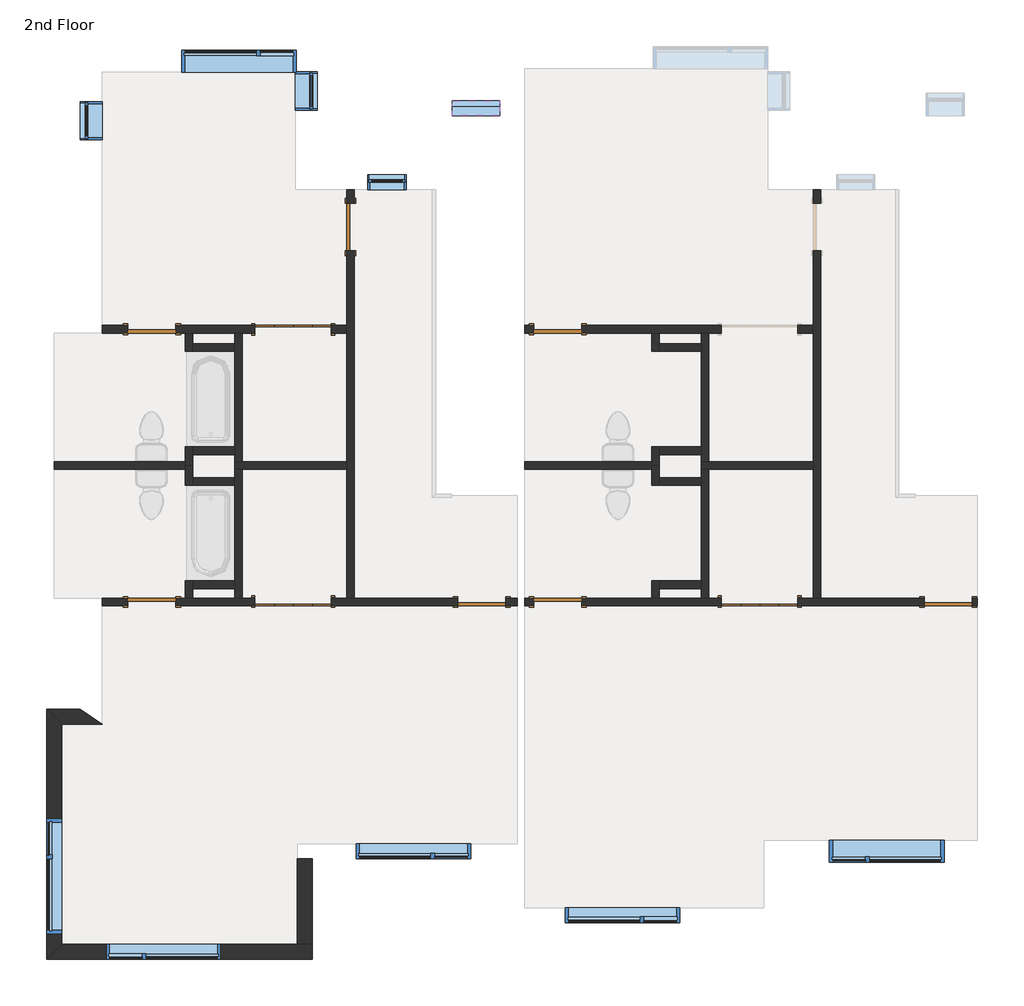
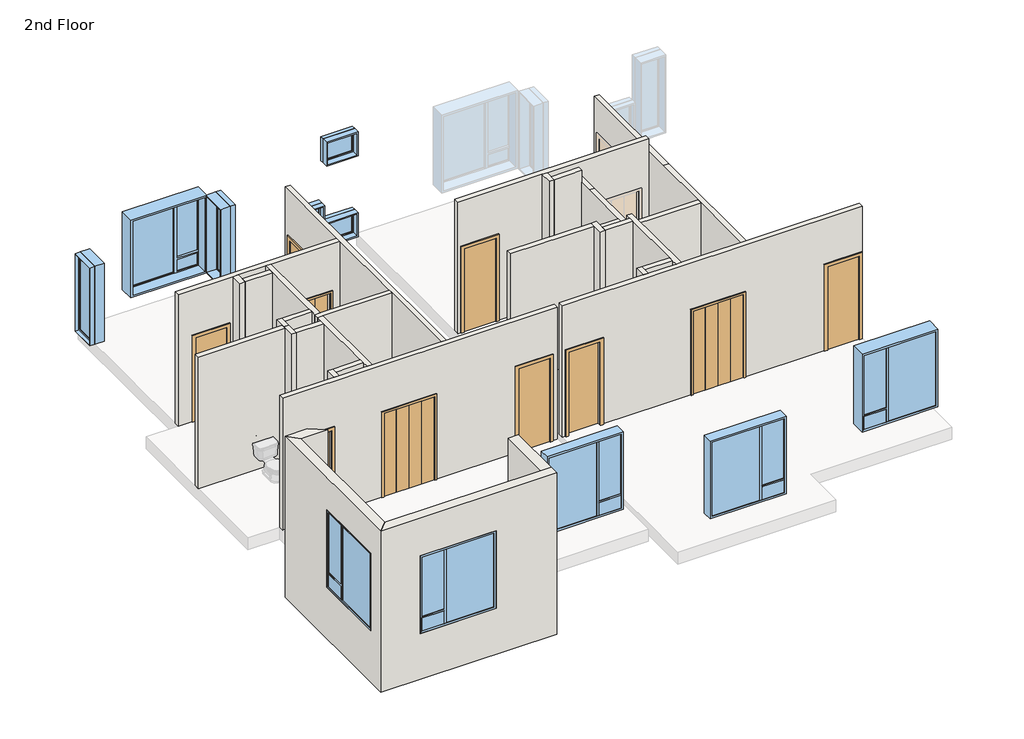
# One storey, part 1 of 2: 34 walls, 12 windows, 10 doors.
"""IFC4 building model written with IfcOpenShell, lengths in millimetres."""

from ifc_helpers import new_model, si_unit, frame, origin, place, context, project, spatial, polyline, outline, extrude, faceted_brep, transform, mapped, element, save
from components import bifold_4_panel_c9060b8c, bifold_4_panel_87549022, door_f8acb57e, door_702a1063, window_8bf192ed, window_b1c1038b, window_03925a3a, window_7b40078c, window_0ea17b29, window_b4566f23

model = new_model("IFC4")

# Units and contexts
model_context = context("Model", 3, world=origin())
ifc_project = project(units=[si_unit("LENGTHUNIT", "METRE", prefix="MILLI")], contexts=[model_context])

# Site, building, storey
site = spatial("IfcSite", under=ifc_project)
building = spatial("IfcBuilding", under=site)
storey = spatial("IfcBuildingStorey", under=building, Name="2nd Floor", Elevation=3352.8)

# Doors
placement = place(None, origin())
bifold_4_panel_shape = bifold_4_panel_c9060b8c(model_context)
element("IfcDoor", 1, ObjectType="Bifold - 4 panel : 48\" x  84\"", at=placement, inside=storey, context=model_context, shape_type="MappedRepresentation", body=[
    mapped(bifold_4_panel_shape, transform((2169.4655789, -2059.4561915, 3352.8), x_axis=(1.0, 0.0, 0.0), y_axis=(0.0, 1.0, 0.0), z_axis=(0.0, 0.0, 1.0))),
])
element("IfcDoor", 2, ObjectType="Bifold - 4 panel : 48\" x  84\"", at=placement, inside=storey, context=model_context, shape_type="MappedRepresentation", body=[
    mapped(bifold_4_panel_shape, transform((-5271.2844211, -2059.4561915, 3352.8), x_axis=(1.0, 0.0, 0.0), y_axis=(0.0, 1.0, 0.0), z_axis=(0.0, 0.0, 1.0))),
])
bifold_4_panel_2_shape = bifold_4_panel_87549022(model_context)
element("IfcDoor", 3, ObjectType="Bifold - 4 panel : 48\" x  84\"", at=placement, inside=storey, context=model_context, shape_type="MappedRepresentation", body=[
    mapped(bifold_4_panel_2_shape, transform((-5271.2844211, 2292.6699206, 3352.8), x_axis=(1.0, 0.0, 0.0), y_axis=(0.0, 1.0, 0.0), z_axis=(0.0, 0.0, 1.0))),
])
door_shape = door_f8acb57e(model_context)
element("IfcDoor", 4, ObjectType="Single-Flush : 30\" x 84\"", at=placement, inside=storey, context=model_context, shape_type="MappedRepresentation", body=[
    mapped(door_shape, transform((-1052.2446781, 2292.6699206, 3352.8), x_axis=(-1.0, 0.0, 0.0), y_axis=(0.0, -1.0, 0.0), z_axis=(0.0, 0.0, 1.0))),
])
element("IfcDoor", 5, ObjectType="Single-Flush : 30\" x 84\"", at=placement, inside=storey, context=model_context, shape_type="MappedRepresentation", body=[
    mapped(door_shape, transform((-4356.8844211, 3921.3063085, 3352.8), x_axis=(0.0, 1.0, 0.0), y_axis=(-1.0, 0.0, 0.0), z_axis=(0.0, 0.0, 1.0))),
])
element("IfcDoor", 6, ObjectType="Single-Flush : 30\" x 84\"", at=placement, inside=storey, context=model_context, shape_type="MappedRepresentation", body=[
    mapped(door_shape, transform((-7524.7446781, -2059.4561915, 3352.8), x_axis=(1.0, 0.0, 0.0), y_axis=(0.0, 1.0, 0.0), z_axis=(0.0, 0.0, 1.0))),
])
door_2_shape = door_702a1063(model_context)
element("IfcDoor", 7, ObjectType="Single-Flush : 30\" x 84\"", at=placement, inside=storey, context=model_context, shape_type="MappedRepresentation", body=[
    mapped(door_2_shape, transform((-1052.2446781, -2059.4561915, 3352.8), x_axis=(-1.0, 0.0, 0.0), y_axis=(0.0, -1.0, 0.0), z_axis=(0.0, 0.0, 1.0))),
])
element("IfcDoor", 8, ObjectType="Single-Flush : 30\" x 84\"", at=placement, inside=storey, context=model_context, shape_type="MappedRepresentation", body=[
    mapped(door_2_shape, transform((5177.5155789, -2059.4561915, 3352.8), x_axis=(1.0, 0.0, 0.0), y_axis=(0.0, 1.0, 0.0), z_axis=(0.0, 0.0, 1.0))),
])
element("IfcDoor", 9, ObjectType="Single-Flush : 30\" x 84\"", at=placement, inside=storey, context=model_context, shape_type="MappedRepresentation", body=[
    mapped(door_2_shape, transform((-7524.7446781, 2292.6699206, 3352.8), x_axis=(1.0, 0.0, 0.0), y_axis=(0.0, 1.0, 0.0), z_axis=(0.0, 0.0, 1.0))),
])
element("IfcDoor", 10, ObjectType="Single-Flush : 30\" x 84\"", at=placement, inside=storey, context=model_context, shape_type="MappedRepresentation", body=[
    mapped(door_2_shape, transform((-2263.2344211, -2059.4561915, 3352.8), x_axis=(1.0, 0.0, 0.0), y_axis=(0.0, 1.0, 0.0), z_axis=(0.0, 0.0, 1.0))),
])

# Walls
element("IfcWall", 11, ObjectType="Exterior - Stucco", at=placement, inside=storey, context=model_context, shape_type="Brep", body=[
    faceted_brep([(-9204.3196781, -7758.9936915, 2952.8), (-4962.9321781, -7758.9936915, 2952.8), (-4962.9321781, -7758.9936915, 7052.8), (-9204.3196781, -7758.9936915, 7052.8), (-8255.0946781, -7758.9936915, 6096.0), (-6426.2946781, -7758.9936915, 6096.0), (-6426.2946781, -7758.9936915, 4114.8), (-8255.0946781, -7758.9936915, 4114.8), (-8963.0196781, -7517.6936915, 2952.8), (-8963.0196781, -7517.6936915, 7052.8), (-5204.2321781, -7517.6936915, 7052.8), (-4962.9321781, -7517.6936915, 7052.8), (-4962.9321781, -7517.6936915, 2952.8), (-5204.2321781, -7517.6936915, 2952.8), (-8255.0946781, -7517.6936915, 6096.0), (-8255.0946781, -7517.6936915, 4114.8), (-6426.2946781, -7517.6936915, 4114.8), (-6426.2946781, -7517.6936915, 6096.0)], [[[0, 1, 2, 3], [4, 5, 6, 7]], [[8, 9, 10, 11, 12, 13], [14, 15, 16, 17]], [[1, 0, 8, 13, 12]], [[3, 2, 11, 10, 9]], [[0, 3, 9, 8]], [[2, 1, 12, 11]], [[15, 14, 4, 7]], [[16, 15, 7, 6]], [[17, 16, 6, 5]], [[14, 17, 5, 4]]]),
])
element("IfcWall", 12, ObjectType="Exterior - Stucco", at=placement, inside=storey, context=model_context, shape_type="Brep", body=[
    faceted_brep([(-9204.3196781, -3770.7811915, 2952.8), (-9204.3196781, -7758.9936915, 2952.8), (-9204.3196781, -7758.9936915, 7052.8), (-9204.3196781, -3770.7811915, 7052.8), (-9204.3196781, -5519.0311915, 6248.4), (-9204.3196781, -7347.8311915, 6248.4), (-9204.3196781, -7347.8311915, 4267.2), (-9204.3196781, -5519.0311915, 4267.2), (-8963.0196781, -4012.0811915, 2952.8), (-8963.0196781, -4012.0811915, 7052.8), (-8963.0196781, -7517.6936915, 7052.8), (-8963.0196781, -7517.6936915, 2952.8), (-8963.0196781, -5519.0311915, 6248.4), (-8963.0196781, -5519.0311915, 4267.2), (-8963.0196781, -7347.8311915, 4267.2), (-8963.0196781, -7347.8311915, 6248.4)], [[[0, 1, 2, 3], [4, 5, 6, 7]], [[8, 9, 10, 11], [12, 13, 14, 15]], [[1, 0, 8, 11]], [[3, 2, 10, 9]], [[2, 1, 11, 10]], [[0, 3, 9, 8]], [[13, 12, 4, 7]], [[14, 13, 7, 6]], [[15, 14, 6, 5]], [[12, 15, 5, 4]]]),
])
element("IfcWall", 13, ObjectType="Exterior - Stucco", at=placement, inside=storey, context=model_context, shape_type="SweptSolid", body=[
    extrude(outline(polyline([(-9204.3196781, -3770.7811915), (-8664.6696781, -3770.7811915), (-8312.2446781, -4012.0811915), (-8963.0196781, -4012.0811915), (-9204.3196781, -3770.7811915)])), frame((0.0, 0.0, 2952.8), z_axis=(0.0, 0.0, 1.0), x_axis=(1.0, 0.0, 0.0)), (0.0, 0.0, 1.0), 4100.0),
])
element("IfcWall", 14, ObjectType="Exterior - Stucco", at=placement, inside=storey, context=model_context, shape_type="Brep", body=[
    faceted_brep([(-4962.9321781, -7517.6936915, 2952.75), (-4962.9321781, -6155.1546456, 2952.75), (-4962.9321781, -6155.1546456, 7052.6671875), (-4962.9321781, -7517.6936915, 7052.6671875), (-5204.2321781, -7517.6936915, 2952.75), (-5204.2321781, -7517.6936915, 7052.6671875), (-5204.2321781, -6155.1546456, 7052.6671875), (-5204.2321781, -6155.1546456, 3048.0), (-5204.2321781, -6155.1546456, 2952.75)], [[[0, 1, 2, 3]], [[4, 5, 6, 7, 8]], [[1, 0, 4, 8]], [[3, 2, 6, 5]], [[1, 8, 7, 6, 2]], [[0, 3, 5, 4]]]),
])
element("IfcWall", 15, ObjectType="Interior - 4 7/8\" Partition (1-hr)", at=placement, inside=storey, context=model_context, shape_type="Brep", body=[
    faceted_brep([(3145.7780789, 4302.3063085, 5486.4), (3145.7780789, 4302.3063085, 3352.8), (3145.7780789, 4511.8563085, 3352.8), (3145.7780789, 4511.8563085, 6400.8), (3145.7780789, 1625.1313085, 6400.8), (3145.7780789, -1997.5436915, 6400.8), (3145.7780789, -1997.5436915, 3352.8), (3145.7780789, 3540.3063085, 3352.8), (3145.7780789, 3540.3063085, 5486.4), (3021.9530789, 4511.8563085, 3352.8), (3021.9530789, 4302.3063085, 3352.8), (3021.9530789, 4302.3063085, 5486.4), (3021.9530789, 3540.3063085, 5486.4), (3021.9530789, 3540.3063085, 3352.8), (3021.9530789, 2354.5824206, 3352.8), (3021.9530789, 2230.7574206, 3352.8), (3021.9530789, 178.5193646, 3352.8), (3021.9530789, 54.6943646, 3352.8), (3021.9530789, -1997.5436915, 3352.8), (3021.9530789, -1997.5436915, 6400.8), (3021.9530789, 54.6943646, 6400.8), (3021.9530789, 178.5193646, 6400.8), (3021.9530789, 1625.1313085, 6400.8), (3021.9530789, 4511.8563085, 6400.8)], [[[0, 1, 2, 3, 4, 5, 6, 7, 8]], [[9, 10, 11, 12, 13, 14, 15, 16, 17, 18, 19, 20, 21, 22, 23]], [[2, 1, 10, 9]], [[7, 6, 18, 17, 16, 15, 14, 13]], [[9, 23, 3, 2]], [[23, 22, 4, 3]], [[22, 21, 20, 19, 5, 4]], [[19, 18, 6, 5]], [[11, 10, 1, 0]], [[12, 11, 0, 8]], [[13, 12, 8, 7]]]),
])
element("IfcWall", 16, ObjectType="Interior - 4 7/8\" Partition (1-hr)", at=placement, inside=storey, context=model_context, shape_type="Brep", body=[
    faceted_brep([(3021.9530789, 54.6943646, 3352.8), (3021.9530789, 54.6943646, 6400.8), (1235.1530789, 54.6943646, 6400.8), (1235.1530789, 54.6943646, 3352.8), (1358.9780789, 54.6943646, 3352.8), (3021.9530789, 178.5193646, 3352.8), (1358.9780789, 178.5193646, 3352.8), (1235.1530789, 178.5193646, 3352.8), (1235.1530789, 178.5193646, 6400.8), (1358.9780789, 178.5193646, 6400.8), (3021.9530789, 178.5193646, 6400.8)], [[[0, 1, 2, 3, 4]], [[5, 6, 7, 8, 9, 10]], [[7, 6, 5, 0, 4, 3]], [[8, 7, 3, 2]], [[5, 10, 1, 0]], [[10, 9, 8, 2, 1]]]),
])
element("IfcWall", 17, ObjectType="Interior - 4 7/8\" Partition (1-hr)", at=placement, inside=storey, context=model_context, shape_type="Brep", body=[
    faceted_brep([(3021.9530789, 2354.5824206, 6705.6), (-1576.1196781, 2354.5824206, 6705.6), (-1576.1196781, 2230.7574206, 6705.6), (447.7530789, 2230.7574206, 6705.6), (571.5780789, 2230.7574206, 6705.6), (3021.9530789, 2230.7574206, 6705.6), (-1576.1196781, 2230.7574206, 3352.8), (-1433.2446781, 2230.7574206, 3352.8), (-1433.2446781, 2230.7574206, 5486.4), (-671.2446781, 2230.7574206, 5486.4), (-671.2446781, 2230.7574206, 3352.8), (447.7530789, 2230.7574206, 3352.8), (571.5780789, 2230.7574206, 3352.8), (1235.1530789, 2230.7574206, 3352.8), (1358.9780789, 2230.7574206, 3352.8), (1559.8655789, 2230.7574206, 3352.8), (1559.8655789, 2230.7574206, 5486.4), (2779.0655789, 2230.7574206, 5486.4), (2779.0655789, 2230.7574206, 3352.8), (3021.9530789, 2230.7574206, 3352.8), (3021.9530789, 2354.5824206, 3352.8), (2779.0655789, 2354.5824206, 3352.8), (2779.0655789, 2354.5824206, 5486.4), (1559.8655789, 2354.5824206, 5486.4), (1559.8655789, 2354.5824206, 3352.8), (-671.2446781, 2354.5824206, 3352.8), (-671.2446781, 2354.5824206, 5486.4), (-1433.2446781, 2354.5824206, 5486.4), (-1433.2446781, 2354.5824206, 3352.8), (-1576.1196781, 2354.5824206, 3352.8)], [[[0, 1, 2, 3, 4, 5]], [[5, 4, 3, 2, 6, 7, 8, 9, 10, 11, 12, 13, 14, 15, 16, 17, 18, 19]], [[1, 0, 20, 21, 22, 23, 24, 25, 26, 27, 28, 29]], [[20, 19, 18, 21]], [[6, 29, 28, 7]], [[24, 15, 14, 13, 12, 11, 10, 25]], [[20, 0, 5, 19]], [[1, 29, 6, 2]], [[17, 22, 21, 18]], [[22, 17, 16, 23]], [[23, 16, 15, 24]], [[27, 8, 7, 28]], [[8, 27, 26, 9]], [[9, 26, 25, 10]]]),
])
element("IfcWall", 18, ObjectType="Interior - 4 7/8\" Partition (1-hr)", at=placement, inside=storey, context=model_context, shape_type="Brep", body=[
    faceted_brep([(1235.1530789, 178.5193646, 3352.8), (1235.1530789, 178.5193646, 6400.8), (1235.1530789, 289.2824206, 6400.8), (1235.1530789, 413.1074206, 6400.8), (1235.1530789, 1625.1313085, 6400.8), (1235.1530789, 2230.7574206, 6400.8), (1235.1530789, 2230.7574206, 3352.8), (1235.1530789, 2060.9324206, 3352.8), (1235.1530789, 1937.1074206, 3352.8), (1235.1530789, 413.1074206, 3352.8), (1235.1530789, 289.2824206, 3352.8), (1358.9780789, 178.5193646, 3352.8), (1358.9780789, 2230.7574206, 3352.8), (1358.9780789, 2230.7574206, 6400.8), (1358.9780789, 1625.1313085, 6400.8), (1358.9780789, 178.5193646, 6400.8)], [[[0, 1, 2, 3, 4, 5, 6, 7, 8, 9, 10]], [[11, 12, 13, 14, 15]], [[12, 11, 0, 10, 9, 8, 7, 6]], [[11, 15, 1, 0]], [[13, 12, 6, 5]], [[14, 13, 5, 4]], [[15, 14, 4, 3, 2, 1]]]),
])
element("IfcWall", 19, ObjectType="Interior - 4 7/8\" Partition (1-hr)", at=placement, inside=storey, context=model_context, shape_type="Brep", body=[
    faceted_brep([(447.7530789, 2230.7574206, 3352.8), (447.7530789, 1937.1074206, 3352.8), (447.7530789, 1937.1074206, 6705.6), (447.7530789, 2230.7574206, 6705.6), (571.5780789, 2230.7574206, 3352.8), (571.5780789, 2230.7574206, 6705.6), (571.5780789, 2060.9324206, 6705.6), (571.5780789, 1937.1074206, 6705.6), (571.5780789, 1937.1074206, 3352.8), (571.5780789, 2060.9324206, 3352.8)], [[[0, 1, 2, 3]], [[4, 5, 6, 7, 8, 9]], [[1, 0, 4, 9, 8]], [[3, 2, 7, 6, 5]], [[2, 1, 8, 7]], [[0, 3, 5, 4]]]),
])
element("IfcWall", 20, ObjectType="Interior - 4 7/8\" Partition (1-hr)", at=placement, inside=storey, context=model_context, shape_type="SweptSolid", body=[
    extrude(outline(polyline([(1235.1530789, 1937.1074206), (571.5780789, 1937.1074206), (571.5780789, 2060.9324206), (1235.1530789, 2060.9324206), (1235.1530789, 1937.1074206)])), frame((0.0, 0.0, 3352.8), z_axis=(0.0, 0.0, 1.0), x_axis=(1.0, 0.0, 0.0)), (0.0, 0.0, 1.0), 3352.8),
])
element("IfcWall", 21, ObjectType="Interior - 4 7/8\" Partition (1-hr)", at=placement, inside=storey, context=model_context, shape_type="Brep", body=[
    faceted_brep([(571.5780789, 116.6068646, 3352.8), (571.5780789, 116.6068646, 6400.8), (447.7530789, 116.6068646, 6400.8), (447.7530789, 116.6068646, 3352.8), (447.7530789, 178.5193646, 6400.8), (447.7530789, 413.1074206, 6400.8), (447.7530789, 413.1074206, 3352.8), (447.7530789, 178.5193646, 3352.8), (571.5780789, 289.2824206, 3352.8), (571.5780789, 413.1074206, 3352.8), (571.5780789, 413.1074206, 6400.8), (571.5780789, 289.2824206, 6400.8), (571.5780789, 178.5193646, 6400.8)], [[[0, 1, 2, 3]], [[3, 2, 4, 5, 6, 7]], [[0, 8, 9, 10, 11, 12, 1]], [[9, 8, 0, 3, 7, 6]], [[10, 9, 6, 5]], [[1, 12, 11, 10, 5, 4, 2]]]),
])
element("IfcWall", 22, ObjectType="Interior - 4 7/8\" Partition (1-hr)", at=placement, inside=storey, context=model_context, shape_type="SweptSolid", body=[
    extrude(outline(polyline([(1235.1530789, 289.2824206), (571.5780789, 289.2824206), (571.5780789, 413.1074206), (1235.1530789, 413.1074206), (1235.1530789, 289.2824206)])), frame((0.0, 0.0, 3352.8), z_axis=(0.0, 0.0, 1.0), x_axis=(1.0, 0.0, 0.0)), (0.0, 0.0, 1.0), 3048.0),
])
element("IfcWall", 23, ObjectType="Interior - 4 7/8\" Partition (1-hr)", at=placement, inside=storey, context=model_context, shape_type="Brep", body=[
    faceted_brep([(5642.6530789, -1997.5436915, 6705.6), (1358.9780789, -1997.5436915, 6705.6), (1235.1530789, -1997.5436915, 6705.6), (571.5780789, -1997.5436915, 6705.6), (447.7530789, -1997.5436915, 6705.6), (-1576.1196781, -1997.5436915, 6705.6), (-1576.1196781, -2121.3686915, 6705.6), (5642.6530789, -2121.3686915, 6705.6), (5558.5155789, -2121.3686915, 5486.4), (5558.5155789, -2121.3686915, 3352.8), (5642.6530789, -2121.3686915, 3352.8), (-1576.1196781, -2121.3686915, 3352.8), (-1433.2446781, -2121.3686915, 3352.8), (-1433.2446781, -2121.3686915, 5486.4), (-671.2446781, -2121.3686915, 5486.4), (-671.2446781, -2121.3686915, 3352.8), (1559.8655789, -2121.3686915, 3352.8), (1559.8655789, -2121.3686915, 5486.4), (2779.0655789, -2121.3686915, 5486.4), (2779.0655789, -2121.3686915, 3352.8), (4796.5155789, -2121.3686915, 3352.8), (4796.5155789, -2121.3686915, 5486.4), (5642.6530789, -1997.5436915, 3352.8), (5558.5155789, -1997.5436915, 3352.8), (5558.5155789, -1997.5436915, 5486.4), (4796.5155789, -1997.5436915, 5486.4), (4796.5155789, -1997.5436915, 3352.8), (3145.7780789, -1997.5436915, 3352.8), (3021.9530789, -1997.5436915, 3352.8), (2779.0655789, -1997.5436915, 3352.8), (2779.0655789, -1997.5436915, 5486.4), (1559.8655789, -1997.5436915, 5486.4), (1559.8655789, -1997.5436915, 3352.8), (1358.9780789, -1997.5436915, 3352.8), (1235.1530789, -1997.5436915, 3352.8), (571.5780789, -1997.5436915, 3352.8), (447.7530789, -1997.5436915, 3352.8), (-671.2446781, -1997.5436915, 3352.8), (-671.2446781, -1997.5436915, 5486.4), (-1433.2446781, -1997.5436915, 5486.4), (-1433.2446781, -1997.5436915, 3352.8), (-1576.1196781, -1997.5436915, 3352.8)], [[[0, 1, 2, 3, 4, 5, 6, 7]], [[8, 9, 10, 7, 6, 11, 12, 13, 14, 15, 16, 17, 18, 19, 20, 21]], [[22, 23, 24, 25, 26, 27, 28, 29, 30, 31, 32, 33, 34, 35, 36, 37, 38, 39, 40, 41, 5, 4, 3, 2, 1, 0]], [[10, 9, 23, 22]], [[11, 41, 40, 12]], [[32, 16, 15, 37, 36, 35, 34, 33]], [[20, 19, 29, 28, 27, 26]], [[22, 0, 7, 10]], [[5, 41, 11, 6]], [[30, 29, 19, 18]], [[31, 30, 18, 17]], [[32, 31, 17, 16]], [[39, 13, 12, 40]], [[13, 39, 38, 14]], [[14, 38, 37, 15]], [[24, 23, 9, 8]], [[25, 24, 8, 21]], [[26, 25, 21, 20]]]),
])
element("IfcWall", 24, ObjectType="Interior - 4 7/8\" Partition (1-hr)", at=placement, inside=storey, context=model_context, shape_type="Brep", body=[
    faceted_brep([(1235.1530789, 54.6943646, 3352.8), (1235.1530789, -76.6556354, 3352.8), (1235.1530789, -200.4806354, 3352.8), (1235.1530789, -1724.4806354, 3352.8), (1235.1530789, -1848.3056354, 3352.8), (1235.1530789, -1997.5436915, 3352.8), (1235.1530789, -1997.5436915, 6705.6), (1235.1530789, -1848.3056354, 6705.6), (1235.1530789, -1724.4806354, 6705.6), (1235.1530789, -200.4806354, 6705.6), (1235.1530789, -76.6556354, 6705.6), (1235.1530789, 54.6943646, 6705.6), (1235.1530789, 54.6943646, 6400.8), (1358.9780789, 54.6943646, 3352.8), (1358.9780789, 54.6943646, 6705.6), (1358.9780789, -1997.5436915, 6705.6), (1358.9780789, -1997.5436915, 3352.8)], [[[0, 1, 2, 3, 4, 5, 6, 7, 8, 9, 10, 11, 12]], [[13, 14, 15, 16]], [[5, 4, 3, 2, 1, 0, 13, 16]], [[11, 10, 9, 8, 7, 6, 15, 14]], [[6, 5, 16, 15]], [[0, 12, 11, 14, 13]]]),
])
element("IfcWall", 25, ObjectType="Interior - 4 7/8\" Partition (1-hr)", at=placement, inside=storey, context=model_context, shape_type="Brep", body=[
    faceted_brep([(571.5780789, -1997.5436915, 3352.8), (571.5780789, -1848.3056354, 3352.8), (571.5780789, -1724.4806354, 3352.8), (571.5780789, -1724.4806354, 6705.6), (571.5780789, -1848.3056354, 6705.6), (571.5780789, -1997.5436915, 6705.6), (447.7530789, -1997.5436915, 3352.8), (447.7530789, -1997.5436915, 6705.6), (447.7530789, -1724.4806354, 6705.6), (447.7530789, -1724.4806354, 3352.8)], [[[0, 1, 2, 3, 4, 5]], [[6, 7, 8, 9]], [[2, 1, 0, 6, 9]], [[5, 4, 3, 8, 7]], [[3, 2, 9, 8]], [[0, 5, 7, 6]]]),
])
element("IfcWall", 26, ObjectType="Interior - 4 7/8\" Partition (1-hr)", at=placement, inside=storey, context=model_context, shape_type="SweptSolid", body=[
    extrude(outline(polyline([(1235.1530789, -1848.3056354), (571.5780789, -1848.3056354), (571.5780789, -1724.4806354), (1235.1530789, -1724.4806354), (1235.1530789, -1848.3056354)])), frame((0.0, 0.0, 3352.8), z_axis=(0.0, 0.0, 1.0), x_axis=(1.0, 0.0, 0.0)), (0.0, 0.0, 1.0), 3352.8),
])
element("IfcWall", 27, ObjectType="Interior - 4 7/8\" Partition (1-hr)", at=placement, inside=storey, context=model_context, shape_type="Brep", body=[
    faceted_brep([(447.7530789, 116.6068646, 3352.8), (447.7530789, 54.6943646, 3352.8), (447.7530789, -200.4806354, 3352.8), (447.7530789, -200.4806354, 6705.6), (447.7530789, 54.6943646, 6705.6), (447.7530789, 178.5193646, 6705.6), (447.7530789, 178.5193646, 6400.8), (447.7530789, 116.6068646, 6400.8), (571.5780789, 116.6068646, 3352.8), (571.5780789, 116.6068646, 6400.8), (571.5780789, 178.5193646, 6400.8), (571.5780789, 178.5193646, 6705.6), (571.5780789, -76.6556354, 6705.6), (571.5780789, -200.4806354, 6705.6), (571.5780789, -200.4806354, 3352.8), (571.5780789, -76.6556354, 3352.8)], [[[0, 1, 2, 3, 4, 5, 6, 7]], [[8, 9, 10, 11, 12, 13, 14, 15]], [[2, 1, 0, 8, 15, 14]], [[5, 4, 3, 13, 12, 11]], [[3, 2, 14, 13]], [[0, 7, 9, 8]], [[6, 10, 9, 7]], [[6, 5, 11, 10]]]),
])
element("IfcWall", 28, ObjectType="Interior - 4 7/8\" Partition (1-hr)", at=placement, inside=storey, context=model_context, shape_type="SweptSolid", body=[
    extrude(outline(polyline([(1235.1530789, -200.4806354), (571.5780789, -200.4806354), (571.5780789, -76.6556354), (1235.1530789, -76.6556354), (1235.1530789, -200.4806354)])), frame((0.0, 0.0, 3352.8), z_axis=(0.0, 0.0, 1.0), x_axis=(1.0, 0.0, 0.0)), (0.0, 0.0, 1.0), 3352.8),
])
element("IfcWall", 29, ObjectType="Interior - 4 7/8\" Partition (1-hr)", at=placement, inside=storey, context=model_context, shape_type="Brep", body=[
    faceted_brep([(447.7530789, 178.5193646, 6705.6), (447.7530789, 178.5193646, 6400.8), (447.7530789, 178.5193646, 3352.8), (-1576.1196781, 178.5193646, 3352.8), (-1576.1196781, 178.5193646, 6705.6), (447.7530789, 54.6943646, 3352.8), (447.7530789, 54.6943646, 6705.6), (-1576.1196781, 54.6943646, 6705.6), (-1576.1196781, 54.6943646, 3352.8), (447.7530789, 116.6068646, 3352.8)], [[[0, 1, 2, 3, 4]], [[5, 6, 7, 8]], [[3, 2, 9, 5, 8]], [[0, 4, 7, 6]], [[0, 6, 5, 9, 2, 1]], [[4, 3, 8, 7]]]),
])
element("IfcWall", 30, ObjectType="Interior - 4 7/8\" Partition (1-hr)", at=placement, inside=storey, context=model_context, shape_type="Brep", body=[
    faceted_brep([(-4418.7969211, 4511.8563085, 6705.6), (-4418.7969211, 2354.5824206, 6705.6), (-4418.7969211, 2230.7574206, 6705.6), (-4418.7969211, 178.5193646, 6705.6), (-4418.7969211, 54.6943646, 6705.6), (-4418.7969211, -1997.5436915, 6705.6), (-4294.9719211, -1997.5436915, 6705.6), (-4294.9719211, 4511.8563085, 6705.6), (-4294.9719211, 4302.3063085, 5486.4), (-4294.9719211, 4302.3063085, 3352.8), (-4294.9719211, 4511.8563085, 3352.8), (-4294.9719211, -1997.5436915, 3352.8), (-4294.9719211, 3540.3063085, 3352.8), (-4294.9719211, 3540.3063085, 5486.4), (-4418.7969211, 4511.8563085, 3352.8), (-4418.7969211, 4302.3063085, 3352.8), (-4418.7969211, 4302.3063085, 5486.4), (-4418.7969211, 3540.3063085, 5486.4), (-4418.7969211, 3540.3063085, 3352.8), (-4418.7969211, 2354.5824206, 3352.8), (-4418.7969211, 2230.7574206, 3352.8), (-4418.7969211, 178.5193646, 3352.8), (-4418.7969211, 54.6943646, 3352.8), (-4418.7969211, -1997.5436915, 3352.8)], [[[0, 1, 2, 3, 4, 5, 6, 7]], [[8, 9, 10, 7, 6, 11, 12, 13]], [[14, 15, 16, 17, 18, 19, 20, 21, 22, 23, 5, 4, 3, 2, 1, 0]], [[10, 9, 15, 14]], [[12, 11, 23, 22, 21, 20, 19, 18]], [[5, 23, 11, 6]], [[14, 0, 7, 10]], [[16, 15, 9, 8]], [[17, 16, 8, 13]], [[18, 17, 13, 12]]]),
])
element("IfcWall", 31, ObjectType="Interior - 4 7/8\" Partition (1-hr)", at=placement, inside=storey, context=model_context, shape_type="Brep", body=[
    faceted_brep([(-4418.7969211, 178.5193646, 3352.8), (-6081.7719211, 178.5193646, 3352.8), (-6205.5969211, 178.5193646, 3352.8), (-6205.5969211, 178.5193646, 6705.6), (-6081.7719211, 178.5193646, 6705.6), (-4418.7969211, 178.5193646, 6705.6), (-4418.7969211, 54.6943646, 3352.8), (-4418.7969211, 54.6943646, 6705.6), (-6081.7719211, 54.6943646, 6705.6), (-6205.5969211, 54.6943646, 6705.6), (-6205.5969211, 54.6943646, 3352.8), (-6081.7719211, 54.6943646, 3352.8)], [[[0, 1, 2, 3, 4, 5]], [[6, 7, 8, 9, 10, 11]], [[2, 1, 0, 6, 11, 10]], [[5, 4, 3, 9, 8, 7]], [[3, 2, 10, 9]], [[0, 5, 7, 6]]]),
])
element("IfcWall", 32, ObjectType="Interior - 4 7/8\" Partition (1-hr)", at=placement, inside=storey, context=model_context, shape_type="Brep", body=[
    faceted_brep([(-4418.7969211, 2354.5824206, 6705.6), (-8312.2446781, 2354.5824206, 6705.6), (-8312.2446781, 2230.7574206, 6705.6), (-6992.9969211, 2230.7574206, 6705.6), (-6869.1719211, 2230.7574206, 6705.6), (-6205.5969211, 2230.7574206, 6705.6), (-6081.7719211, 2230.7574206, 6705.6), (-4418.7969211, 2230.7574206, 6705.6), (-8312.2446781, 2230.7574206, 3352.8), (-7905.7446781, 2230.7574206, 3352.8), (-7905.7446781, 2230.7574206, 5486.4), (-7143.7446781, 2230.7574206, 5486.4), (-7143.7446781, 2230.7574206, 3352.8), (-6992.9969211, 2230.7574206, 3352.8), (-6869.1719211, 2230.7574206, 3352.8), (-6205.5969211, 2230.7574206, 3352.8), (-6081.7719211, 2230.7574206, 3352.8), (-5880.8844211, 2230.7574206, 3352.8), (-5880.8844211, 2230.7574206, 5486.4), (-4661.6844211, 2230.7574206, 5486.4), (-4661.6844211, 2230.7574206, 3352.8), (-4418.7969211, 2230.7574206, 3352.8), (-4418.7969211, 2354.5824206, 3352.8), (-4661.6844211, 2354.5824206, 3352.8), (-4661.6844211, 2354.5824206, 5486.4), (-5880.8844211, 2354.5824206, 5486.4), (-5880.8844211, 2354.5824206, 3352.8), (-7143.7446781, 2354.5824206, 3352.8), (-7143.7446781, 2354.5824206, 5486.4), (-7905.7446781, 2354.5824206, 5486.4), (-7905.7446781, 2354.5824206, 3352.8), (-8312.2446781, 2354.5824206, 3352.8)], [[[0, 1, 2, 3, 4, 5, 6, 7]], [[7, 6, 5, 4, 3, 2, 8, 9, 10, 11, 12, 13, 14, 15, 16, 17, 18, 19, 20, 21]], [[1, 0, 22, 23, 24, 25, 26, 27, 28, 29, 30, 31]], [[22, 21, 20, 23]], [[8, 31, 30, 9]], [[26, 17, 16, 15, 14, 13, 12, 27]], [[22, 0, 7, 21]], [[1, 31, 8, 2]], [[19, 24, 23, 20]], [[24, 19, 18, 25]], [[25, 18, 17, 26]], [[11, 28, 27, 12]], [[28, 11, 10, 29]], [[29, 10, 9, 30]]]),
])
element("IfcWall", 33, ObjectType="Interior - 4 7/8\" Partition (1-hr)", at=placement, inside=storey, context=model_context, shape_type="Brep", body=[
    faceted_brep([(-1699.9446781, -1997.5436915, 6705.6), (-4294.9719211, -1997.5436915, 6705.6), (-4418.7969211, -1997.5436915, 6705.6), (-6081.7719211, -1997.5436915, 6705.6), (-6205.5969211, -1997.5436915, 6705.6), (-6869.1719211, -1997.5436915, 6705.6), (-6992.9969211, -1997.5436915, 6705.6), (-8312.2446781, -1997.5436915, 6705.6), (-8312.2446781, -2121.3686915, 6705.6), (-1699.9446781, -2121.3686915, 6705.6), (-1882.2344211, -2121.3686915, 5486.4), (-1882.2344211, -2121.3686915, 3352.8), (-1699.9446781, -2121.3686915, 3352.8), (-8312.2446781, -2121.3686915, 3352.8), (-7905.7446781, -2121.3686915, 3352.8), (-7905.7446781, -2121.3686915, 5486.4), (-7143.7446781, -2121.3686915, 5486.4), (-7143.7446781, -2121.3686915, 3352.8), (-6218.0913287, -2121.3686915, 3352.8), (-5880.8844211, -2121.3686915, 3352.8), (-5880.8844211, -2121.3686915, 5486.4), (-4661.6844211, -2121.3686915, 5486.4), (-4661.6844211, -2121.3686915, 3352.8), (-2644.2344211, -2121.3686915, 3352.8), (-2644.2344211, -2121.3686915, 5486.4), (-1699.9446781, -1997.5436915, 3352.8), (-1882.2344211, -1997.5436915, 3352.8), (-1882.2344211, -1997.5436915, 5486.4), (-2644.2344211, -1997.5436915, 5486.4), (-2644.2344211, -1997.5436915, 3352.8), (-4294.9719211, -1997.5436915, 3352.8), (-4418.7969211, -1997.5436915, 3352.8), (-4661.6844211, -1997.5436915, 3352.8), (-4661.6844211, -1997.5436915, 5486.4), (-5880.8844211, -1997.5436915, 5486.4), (-5880.8844211, -1997.5436915, 3352.8), (-6081.7719211, -1997.5436915, 3352.8), (-6205.5969211, -1997.5436915, 3352.8), (-6218.0913287, -1997.5436915, 3352.8), (-6869.1719211, -1997.5436915, 3352.8), (-6992.9969211, -1997.5436915, 3352.8), (-7143.7446781, -1997.5436915, 3352.8), (-7143.7446781, -1997.5436915, 5486.4), (-7905.7446781, -1997.5436915, 5486.4), (-7905.7446781, -1997.5436915, 3352.8), (-8312.2446781, -1997.5436915, 3352.8)], [[[0, 1, 2, 3, 4, 5, 6, 7, 8, 9]], [[10, 11, 12, 9, 8, 13, 14, 15, 16, 17, 18, 19, 20, 21, 22, 23, 24]], [[25, 26, 27, 28, 29, 30, 31, 32, 33, 34, 35, 36, 37, 38, 39, 40, 41, 42, 43, 44, 45, 7, 6, 5, 4, 3, 2, 1, 0]], [[13, 45, 44, 14]], [[12, 11, 26, 25]], [[35, 19, 18, 17, 41, 40, 39, 38, 37, 36]], [[23, 22, 32, 31, 30, 29]], [[7, 45, 13, 8]], [[25, 0, 9, 12]], [[33, 32, 22, 21]], [[34, 33, 21, 20]], [[35, 34, 20, 19]], [[16, 42, 41, 17]], [[42, 16, 15, 43]], [[43, 15, 14, 44]], [[27, 26, 11, 10]], [[28, 27, 10, 24]], [[29, 28, 24, 23]]]),
])
element("IfcWall", 34, ObjectType="Interior - 4 7/8\" Partition (1-hr)", at=placement, inside=storey, context=model_context, shape_type="Brep", body=[
    faceted_brep([(-6205.5969211, 54.6943646, 3352.8), (-6205.5969211, -76.6556354, 3352.8), (-6205.5969211, -200.4806354, 3352.8), (-6205.5969211, -1724.4806354, 3352.8), (-6205.5969211, -1848.3056354, 3352.8), (-6205.5969211, -1997.5436915, 3352.8), (-6205.5969211, -1997.5436915, 6705.6), (-6205.5969211, -1848.3056354, 6705.6), (-6205.5969211, -1724.4806354, 6705.6), (-6205.5969211, -200.4806354, 6705.6), (-6205.5969211, -76.6556354, 6705.6), (-6205.5969211, 54.6943646, 6705.6), (-6081.7719211, 54.6943646, 3352.8), (-6081.7719211, 54.6943646, 6705.6), (-6081.7719211, -1997.5436915, 6705.6), (-6081.7719211, -1997.5436915, 3352.8)], [[[0, 1, 2, 3, 4, 5, 6, 7, 8, 9, 10, 11]], [[12, 13, 14, 15]], [[5, 4, 3, 2, 1, 0, 12, 15]], [[11, 10, 9, 8, 7, 6, 14, 13]], [[6, 5, 15, 14]], [[0, 11, 13, 12]]]),
])
element("IfcWall", 35, ObjectType="Interior - 4 7/8\" Partition (1-hr)", at=placement, inside=storey, context=model_context, shape_type="Brep", body=[
    faceted_brep([(-6869.1719211, -1997.5436915, 3352.8), (-6869.1719211, -1848.3056354, 3352.8), (-6869.1719211, -1724.4806354, 3352.8), (-6869.1719211, -1724.4806354, 6705.6), (-6869.1719211, -1848.3056354, 6705.6), (-6869.1719211, -1997.5436915, 6705.6), (-6992.9969211, -1997.5436915, 3352.8), (-6992.9969211, -1997.5436915, 6705.6), (-6992.9969211, -1724.4806354, 6705.6), (-6992.9969211, -1724.4806354, 3352.8)], [[[0, 1, 2, 3, 4, 5]], [[6, 7, 8, 9]], [[2, 1, 0, 6, 9]], [[5, 4, 3, 8, 7]], [[3, 2, 9, 8]], [[0, 5, 7, 6]]]),
])
element("IfcWall", 36, ObjectType="Interior - 4 7/8\" Partition (1-hr)", at=placement, inside=storey, context=model_context, shape_type="SweptSolid", body=[
    extrude(outline(polyline([(-6205.5969211, -1848.3056354), (-6869.1719211, -1848.3056354), (-6869.1719211, -1724.4806354), (-6205.5969211, -1724.4806354), (-6205.5969211, -1848.3056354)])), frame((0.0, 0.0, 3352.8), z_axis=(0.0, 0.0, 1.0), x_axis=(1.0, 0.0, 0.0)), (0.0, 0.0, 1.0), 3352.8),
])
element("IfcWall", 37, ObjectType="Interior - 4 7/8\" Partition (1-hr)", at=placement, inside=storey, context=model_context, shape_type="Brep", body=[
    faceted_brep([(-6992.9969211, 116.6068646, 3352.8), (-6992.9969211, 54.6943646, 3352.8), (-6992.9969211, -200.4806354, 3352.8), (-6992.9969211, -200.4806354, 6705.6), (-6992.9969211, 54.6943646, 6705.6), (-6992.9969211, 116.6068646, 6705.6), (-6869.1719211, 116.6068646, 3352.8), (-6869.1719211, 116.6068646, 6705.6), (-6869.1719211, -76.6556354, 6705.6), (-6869.1719211, -200.4806354, 6705.6), (-6869.1719211, -200.4806354, 3352.8), (-6869.1719211, -76.6556354, 3352.8)], [[[0, 1, 2, 3, 4, 5]], [[6, 7, 8, 9, 10, 11]], [[2, 1, 0, 6, 11, 10]], [[5, 4, 3, 9, 8, 7]], [[0, 5, 7, 6]], [[3, 2, 10, 9]]]),
])
element("IfcWall", 38, ObjectType="Interior - 4 7/8\" Partition (1-hr)", at=placement, inside=storey, context=model_context, shape_type="SweptSolid", body=[
    extrude(outline(polyline([(-6205.5969211, -200.4806354), (-6869.1719211, -200.4806354), (-6869.1719211, -76.6556354), (-6205.5969211, -76.6556354), (-6205.5969211, -200.4806354)])), frame((0.0, 0.0, 3352.8), z_axis=(0.0, 0.0, 1.0), x_axis=(1.0, 0.0, 0.0)), (0.0, 0.0, 1.0), 3352.8),
])
element("IfcWall", 39, ObjectType="Interior - Tile Wainscot", at=placement, inside=storey, context=model_context, shape_type="Brep", body=[
    faceted_brep([(-6081.7719211, 178.5193646, 3352.8), (-6081.7719211, 2230.7574206, 3352.8), (-6081.7719211, 2230.7574206, 6705.6), (-6081.7719211, 178.5193646, 6705.6), (-6205.5969211, 178.5193646, 3352.8), (-6205.5969211, 178.5193646, 6705.6), (-6205.5969211, 289.2824206, 6705.6), (-6205.5969211, 413.1074206, 6705.6), (-6205.5969211, 1937.1074206, 6705.6), (-6205.5969211, 2060.9324206, 6705.6), (-6205.5969211, 2230.7574206, 6705.6), (-6205.5969211, 2230.7574206, 3352.8), (-6205.5969211, 2060.9324206, 3352.8), (-6205.5969211, 1937.1074206, 3352.8), (-6205.5969211, 413.1074206, 3352.8), (-6205.5969211, 289.2824206, 3352.8)], [[[0, 1, 2, 3]], [[4, 5, 6, 7, 8, 9, 10, 11, 12, 13, 14, 15]], [[1, 0, 4, 15, 14, 13, 12, 11]], [[3, 2, 10, 9, 8, 7, 6, 5]], [[0, 3, 5, 4]], [[2, 1, 11, 10]]]),
])
element("IfcWall", 40, ObjectType="Interior - Tile Wainscot", at=placement, inside=storey, context=model_context, shape_type="Brep", body=[
    faceted_brep([(-6992.9969211, 2230.7574206, 3352.8), (-6992.9969211, 1937.1074206, 3352.8), (-6992.9969211, 1937.1074206, 6705.6), (-6992.9969211, 2230.7574206, 6705.6), (-6869.1719211, 2230.7574206, 3352.8), (-6869.1719211, 2230.7574206, 6705.6), (-6869.1719211, 2060.9324206, 6705.6), (-6869.1719211, 1937.1074206, 6705.6), (-6869.1719211, 1937.1074206, 3352.8), (-6869.1719211, 2060.9324206, 3352.8)], [[[0, 1, 2, 3]], [[4, 5, 6, 7, 8, 9]], [[1, 0, 4, 9, 8]], [[3, 2, 7, 6, 5]], [[2, 1, 8, 7]], [[0, 3, 5, 4]]]),
])
element("IfcWall", 41, ObjectType="Interior - Tile Wainscot", at=placement, inside=storey, context=model_context, shape_type="SweptSolid", body=[
    extrude(outline(polyline([(-6205.5969211, 1937.1074206), (-6869.1719211, 1937.1074206), (-6869.1719211, 2060.9324206), (-6205.5969211, 2060.9324206), (-6205.5969211, 1937.1074206)])), frame((0.0, 0.0, 3352.8), z_axis=(0.0, 0.0, 1.0), x_axis=(1.0, 0.0, 0.0)), (0.0, 0.0, 1.0), 3352.8),
])
element("IfcWall", 42, ObjectType="Interior - Tile Wainscot", at=placement, inside=storey, context=model_context, shape_type="Brep", body=[
    faceted_brep([(-6869.1719211, 116.6068646, 3352.8), (-6869.1719211, 289.2824206, 3352.8), (-6869.1719211, 413.1074206, 3352.8), (-6869.1719211, 413.1074206, 6705.6), (-6869.1719211, 289.2824206, 6705.6), (-6869.1719211, 116.6068646, 6705.6), (-6992.9969211, 116.6068646, 3352.8), (-6992.9969211, 116.6068646, 6705.6), (-6992.9969211, 178.5193646, 6705.6), (-6992.9969211, 413.1074206, 6705.6), (-6992.9969211, 413.1074206, 3352.8), (-6992.9969211, 178.5193646, 3352.8)], [[[0, 1, 2, 3, 4, 5]], [[6, 7, 8, 9, 10, 11]], [[2, 1, 0, 6, 11, 10]], [[5, 4, 3, 9, 8, 7]], [[0, 5, 7, 6]], [[3, 2, 10, 9]]]),
])
element("IfcWall", 43, ObjectType="Interior - Tile Wainscot", at=placement, inside=storey, context=model_context, shape_type="SweptSolid", body=[
    extrude(outline(polyline([(-6205.5969211, 289.2824206), (-6869.1719211, 289.2824206), (-6869.1719211, 413.1074206), (-6205.5969211, 413.1074206), (-6205.5969211, 289.2824206)])), frame((0.0, 0.0, 3352.8), z_axis=(0.0, 0.0, 1.0), x_axis=(1.0, 0.0, 0.0)), (0.0, 0.0, 1.0), 3352.8),
])
element("IfcWall", 44, ObjectType="Interior - Tile Wainscot", at=placement, inside=storey, context=model_context, shape_type="Brep", body=[
    faceted_brep([(-6992.9969211, 178.5193646, 3352.8), (-9080.4946781, 178.5193646, 3352.8), (-9080.4946781, 178.5193646, 6705.6), (-6992.9969211, 178.5193646, 6705.6), (-6992.9969211, 54.6943646, 3352.8), (-6992.9969211, 54.6943646, 6705.6), (-9080.4946781, 54.6943646, 6705.6), (-9080.4946781, 54.6943646, 3352.8), (-6992.9969211, 116.6068646, 3352.8), (-6992.9969211, 116.6068646, 6705.6)], [[[0, 1, 2, 3]], [[4, 5, 6, 7]], [[1, 0, 8, 4, 7]], [[3, 2, 6, 5, 9]], [[0, 3, 9, 5, 4, 8]], [[2, 1, 7, 6]]]),
])

# Windows
window_shape = window_8bf192ed(model_context)
element("IfcWindow", 45, ObjectType="Fixed : 24\" x 30\"", at=placement, inside=storey, context=model_context, shape_type="MappedRepresentation", body=[
    mapped(window_shape, transform((-2317.4821781, 5817.7187973, 2946.4), x_axis=(1.0, 0.0, 0.0), y_axis=(0.0, 1.0, 0.0), z_axis=(0.0, 0.0, 1.0))),
])
element("IfcWindow", 46, ObjectType="Fixed : 24\" x 30\"", at=placement, inside=storey, context=model_context, shape_type="MappedRepresentation", body=[
    mapped(window_shape, transform((-2317.4821781, 5817.7187973, 5003.8), x_axis=(1.0, 0.0, 0.0), y_axis=(0.0, 1.0, 0.0), z_axis=(0.0, 0.0, 1.0))),
])
window_2_shape = window_b1c1038b(model_context)
element("IfcWindow", 47, ObjectType="Fixed : 24\" x 78\"", at=placement, inside=storey, context=model_context, shape_type="MappedRepresentation", body=[
    mapped(window_2_shape, transform((-8488.4571781, 5654.8563085, 3352.8), x_axis=(0.0, 1.0, 0.0), y_axis=(-1.0, 0.0, 0.0), z_axis=(0.0, 0.0, 1.0))),
])
element("IfcWindow", 48, ObjectType="Fixed : 24\" x 78\"", at=placement, inside=storey, context=model_context, shape_type="MappedRepresentation", body=[
    mapped(window_2_shape, transform((-5059.2321781, 6051.7313085, 3352.8), x_axis=(0.0, -1.0, 0.0), y_axis=(1.0, 0.0, 0.0), z_axis=(0.0, 0.0, 1.0))),
])
window_3_shape = window_03925a3a(model_context)
element("IfcWindow", 49, ObjectType="Fixed : 24\" x 78\"", at=placement, inside=storey, context=model_context, shape_type="MappedRepresentation", body=[
    mapped(window_3_shape, transform((-3737.7610601, 4632.5063085, 3606.8), x_axis=(1.0, 0.0, 0.0), y_axis=(0.0, 1.0, 0.0), z_axis=(0.0, 0.0, 1.0))),
])
element("IfcWindow", 50, ObjectType="Fixed : 24\" x 78\"", at=placement, inside=storey, context=model_context, shape_type="MappedRepresentation", body=[
    mapped(window_3_shape, transform((-3737.7610601, 4632.5063085, 1346.2), x_axis=(1.0, 0.0, 0.0), y_axis=(0.0, 1.0, 0.0), z_axis=(0.0, 0.0, 1.0))),
])
window_4_shape = window_7b40078c(model_context)
element("IfcWindow", 51, ObjectType="Window-Casement-Double-Sidelight : 72\" x 78\"", at=placement, inside=storey, context=model_context, shape_type="MappedRepresentation", body=[
    mapped(window_4_shape, transform((4195.3655789, -6034.5046456, 3352.8), x_axis=(-1.0, 0.0, 0.0), y_axis=(0.0, -1.0, 0.0), z_axis=(0.0, 0.0, 1.0))),
])
element("IfcWindow", 52, ObjectType="Window-Casement-Double-Sidelight : 72\" x 78\"", at=placement, inside=storey, context=model_context, shape_type="MappedRepresentation", body=[
    mapped(window_4_shape, transform((-6134.0446781, 6565.7063085, 2743.2), x_axis=(1.0, 0.0, 0.0), y_axis=(0.0, 1.0, 0.0), z_axis=(0.0, 0.0, 1.0))),
])
window_5_shape = window_0ea17b29(model_context)
element("IfcWindow", 53, ObjectType="Window-Casement-Double-Sidelight : 72\" x 78\"", at=placement, inside=storey, context=model_context, shape_type="MappedRepresentation", body=[
    mapped(window_5_shape, transform((-9083.6696781, -6433.4311915, 3352.8), x_axis=(0.0, 1.0, 0.0), y_axis=(-1.0, 0.0, 0.0), z_axis=(0.0, 0.0, 1.0))),
])
element("IfcWindow", 54, ObjectType="Window-Casement-Double-Sidelight : 72\" x 78\"", at=placement, inside=storey, context=model_context, shape_type="MappedRepresentation", body=[
    mapped(window_5_shape, transform((-7340.6946781, -7638.3436915, 3200.4), x_axis=(-1.0, 0.0, 0.0), y_axis=(0.0, -1.0, 0.0), z_axis=(0.0, 0.0, 1.0))),
])
window_6_shape = window_b4566f23(model_context)
element("IfcWindow", 55, ObjectType="Window-Casement-Double-Sidelight : 72\" x 78\"", at=placement, inside=storey, context=model_context, shape_type="MappedRepresentation", body=[
    mapped(window_6_shape, transform((-16.2061336, -7054.5811915, 3200.4), x_axis=(1.0, 0.0, 0.0), y_axis=(0.0, 1.0, 0.0), z_axis=(0.0, 0.0, 1.0))),
])
element("IfcWindow", 56, ObjectType="Window-Casement-Double-Sidelight : 72\" x 78\"", at=placement, inside=storey, context=model_context, shape_type="MappedRepresentation", body=[
    mapped(window_6_shape, transform((-3352.6515857, -6034.5046456, 3352.8), x_axis=(1.0, 0.0, 0.0), y_axis=(0.0, 1.0, 0.0), z_axis=(0.0, 0.0, 1.0))),
])

save(model, "model.ifc")
